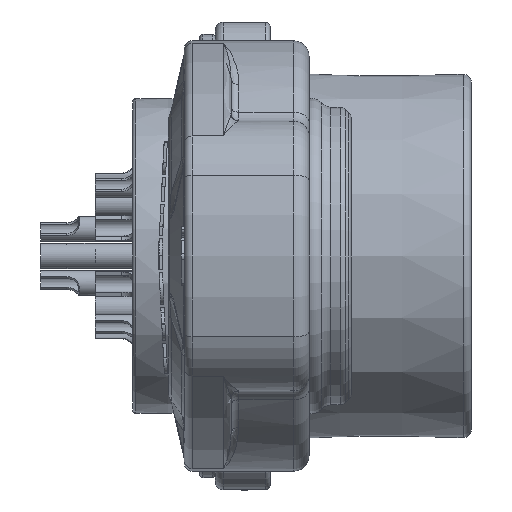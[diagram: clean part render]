
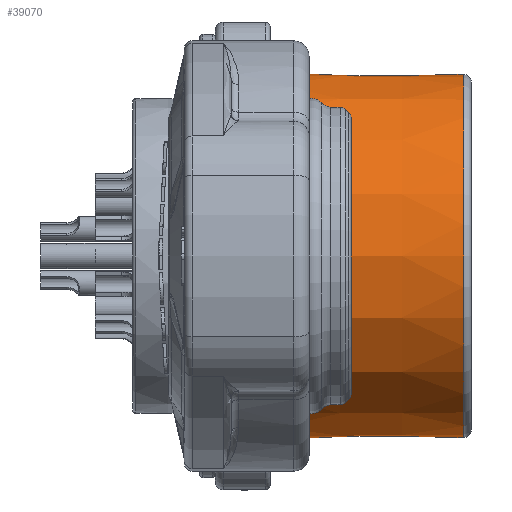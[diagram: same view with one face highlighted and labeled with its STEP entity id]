
A CAD part, front view. The second image highlights one B-rep face of the part: STEP entity #39070.
In plain terms, the highlighted conical face has half-angle 0.5 degrees and reference radius 11.65 mm.
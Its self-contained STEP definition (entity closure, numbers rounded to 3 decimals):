
#2015 = CARTESIAN_POINT ( 'NONE',  ( -2.33, 8.741, 7.733 ) ) ;
#2949 = CARTESIAN_POINT ( 'NONE',  ( -2.631, 8.742, -7.735 ) ) ;
#3973 = CARTESIAN_POINT ( 'NONE',  ( -4.765, 8.752, -7.752 ) ) ;
#4839 = CARTESIAN_POINT ( 'NONE',  ( -12.404, 8.786, 7.814 ) ) ;
#5023 = VERTEX_POINT ( 'NONE', #13227 ) ;
#5824 = B_SPLINE_CURVE_WITH_KNOTS ( 'NONE', 3,
 ( #17626, #2015, #61025, #49202, #18315, #28021, #13453 ),
 .UNSPECIFIED., .F., .F.,
 ( 4, 3, 4 ),
 ( 0., 0.006, 0.012 ),
 .UNSPECIFIED. ) ;
#10110 = CIRCLE ( 'NONE', #55550, 11.758 ) ;
#11026 = EDGE_CURVE ( 'NONE', #39537, #5023, #68311, .T. ) ;
#13167 = VERTEX_POINT ( 'NONE', #4839 ) ;
#13227 = CARTESIAN_POINT ( 'NONE',  ( -0.496, 8.733, -7.718 ) ) ;
#13453 = CARTESIAN_POINT ( 'NONE',  ( -12.404, 8.786, 7.814 ) ) ;
#14181 = CIRCLE ( 'NONE', #21933, 11.654 ) ;
#15372 = ORIENTED_EDGE ( 'NONE', *, *, #62936, .T. ) ;
#15373 = CARTESIAN_POINT ( 'NONE',  ( -12.404, 0., 0. ) ) ;
#15695 = DIRECTION ( 'NONE',  ( 1., 0., 0. ) ) ;
#16258 = VERTEX_POINT ( 'NONE', #48808 ) ;
#17626 = CARTESIAN_POINT ( 'NONE',  ( -0.496, 8.733, 7.718 ) ) ;
#18315 = CARTESIAN_POINT ( 'NONE',  ( -8.135, 8.767, 7.78 ) ) ;
#19631 = DIRECTION ( 'NONE',  ( -1., 0., 0. ) ) ;
#21933 = AXIS2_PLACEMENT_3D ( 'NONE', #45998, #19631, #24130 ) ;
#24130 = DIRECTION ( 'NONE',  ( 0., 0., -1. ) ) ;
#27605 = CARTESIAN_POINT ( 'NONE',  ( -12.404, 8.786, -7.814 ) ) ;
#28021 = CARTESIAN_POINT ( 'NONE',  ( -10.269, 8.776, 7.797 ) ) ;
#34251 = ORIENTED_EDGE ( 'NONE', *, *, #11026, .T. ) ;
#34557 = CARTESIAN_POINT ( 'NONE',  ( -0.496, 8.733, -7.718 ) ) ;
#34590 = AXIS2_PLACEMENT_3D ( 'NONE', #68685, #42284, #47171 ) ;
#39070 = ADVANCED_FACE ( 'NONE', ( #63820 ), #61138, .T. ) ;
#39537 = VERTEX_POINT ( 'NONE', #45552 ) ;
#41637 = EDGE_CURVE ( 'NONE', #13167, #39537, #10110, .T. ) ;
#42106 = EDGE_LOOP ( 'NONE', ( #51490, #47987, #34251, #15372 ) ) ;
#42284 = DIRECTION ( 'NONE',  ( -1., 0., 0. ) ) ;
#45161 = EDGE_CURVE ( 'NONE', #16258, #13167, #5824, .T. ) ;
#45552 = CARTESIAN_POINT ( 'NONE',  ( -12.404, 8.786, -7.814 ) ) ;
#45634 = CARTESIAN_POINT ( 'NONE',  ( -10.57, 8.778, -7.8 ) ) ;
#45998 = CARTESIAN_POINT ( 'NONE',  ( -0.496, 0., 0. ) ) ;
#47171 = DIRECTION ( 'NONE',  ( 0., 0., 1. ) ) ;
#47987 = ORIENTED_EDGE ( 'NONE', *, *, #41637, .T. ) ;
#48808 = CARTESIAN_POINT ( 'NONE',  ( -0.496, 8.733, 7.718 ) ) ;
#49202 = CARTESIAN_POINT ( 'NONE',  ( -6., 8.757, 7.762 ) ) ;
#51490 = ORIENTED_EDGE ( 'NONE', *, *, #45161, .T. ) ;
#51518 = CARTESIAN_POINT ( 'NONE',  ( -6.9, 8.761, -7.77 ) ) ;
#52151 = DIRECTION ( 'NONE',  ( 0., 0., 1. ) ) ;
#55550 = AXIS2_PLACEMENT_3D ( 'NONE', #15373, #15695, #52151 ) ;
#55684 = CARTESIAN_POINT ( 'NONE',  ( -8.735, 8.77, -7.785 ) ) ;
#61025 = CARTESIAN_POINT ( 'NONE',  ( -4.165, 8.749, 7.747 ) ) ;
#61138 = CONICAL_SURFACE ( 'NONE', #34590, 11.65, 0.009 ) ;
#62936 = EDGE_CURVE ( 'NONE', #5023, #16258, #14181, .T. ) ;
#63820 = FACE_OUTER_BOUND ( 'NONE', #42106, .T. ) ;
#68311 = B_SPLINE_CURVE_WITH_KNOTS ( 'NONE', 3,
 ( #27605, #45634, #55684, #51518, #3973, #2949, #34557 ),
 .UNSPECIFIED., .F., .F.,
 ( 4, 3, 4 ),
 ( 0., 0.006, 0.012 ),
 .UNSPECIFIED. ) ;
#68685 = CARTESIAN_POINT ( 'NONE',  ( 0., 0., 0. ) ) ;
